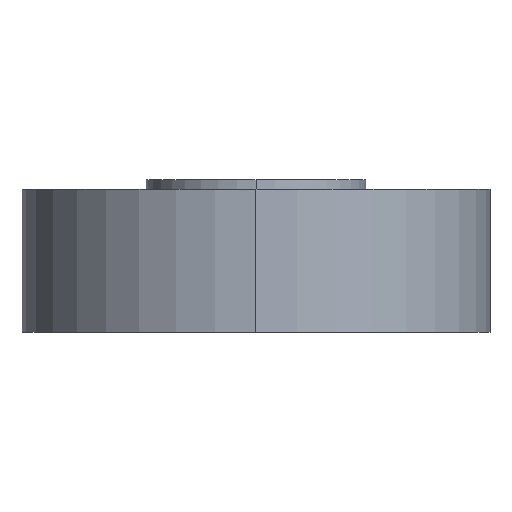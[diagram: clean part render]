
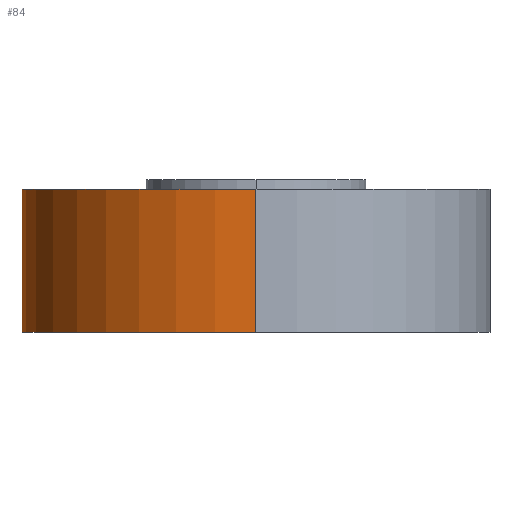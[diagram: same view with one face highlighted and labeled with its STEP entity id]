
A CAD part, left-side view. The second image highlights one B-rep face of the part: STEP entity #84.
In plain terms, the highlighted cylindrical face has radius 24.5 mm (diameter 49 mm), a partial arc.
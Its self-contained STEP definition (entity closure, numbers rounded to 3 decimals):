
#84=ADVANCED_FACE('',(#259),#260,.T.);
#259=FACE_OUTER_BOUND('',#640,.T.);
#260=CYLINDRICAL_SURFACE('',#641,24.5);
#640=EDGE_LOOP('',(#1066,#1067,#1068,#1069,#1070,#1071));
#641=AXIS2_PLACEMENT_3D('',#1072,#1073,#1074);
#1066=ORIENTED_EDGE('',*,*,#2196,.F.);
#1067=ORIENTED_EDGE('',*,*,#2197,.F.);
#1068=ORIENTED_EDGE('',*,*,#2198,.F.);
#1069=ORIENTED_EDGE('',*,*,#2199,.F.);
#1070=ORIENTED_EDGE('',*,*,#2200,.F.);
#1071=ORIENTED_EDGE('',*,*,#2201,.T.);
#1072=CARTESIAN_POINT('',(0.0,0.0,7.5));
#1073=DIRECTION('',(0.0,0.0,-1.0));
#1074=DIRECTION('',(1.0,0.0,0.0));
#2196=EDGE_CURVE('',#2563,#2564,#2565,.T.);
#2197=EDGE_CURVE('',#2566,#2563,#2567,.T.);
#2198=EDGE_CURVE('',#2568,#2566,#2569,.T.);
#2199=EDGE_CURVE('',#2570,#2568,#2571,.T.);
#2200=EDGE_CURVE('',#2572,#2570,#2573,.T.);
#2201=EDGE_CURVE('',#2572,#2564,#2574,.T.);
#2563=VERTEX_POINT('',#3129);
#2564=VERTEX_POINT('',#3130);
#2565=LINE('',#3131,#3132);
#2566=VERTEX_POINT('',#3133);
#2567=CIRCLE('',#3134,24.5);
#2568=VERTEX_POINT('',#3135);
#2569=LINE('',#3136,#3137);
#2570=VERTEX_POINT('',#3138);
#2571=CIRCLE('',#3139,24.5);
#2572=VERTEX_POINT('',#3140);
#2573=LINE('',#3141,#3142);
#2574=B_SPLINE_CURVE_WITH_KNOTS('',3,(#3143,#3144,#3145,#3146,#3147,#3148,#3149,#3150,#3151,#3152,#3153,#3154,#3155,#3156,#3157,#3158,#3159,#3160,#3161,#3162,#3163,#3164,#3165,#3166,#3167,#3168,#3169,#3170,#3171,#3172,#3173,#3174,#3175,#3176,#3177),.UNSPECIFIED.,.F.,.F.,(4,2,2,2,2,2,2,2,3,2,2,2,2,2,2,2,4),(9.95,10.365,10.779,11.194,11.609,12.023,12.438,12.852,13.267,13.682,14.096,14.511,14.925,15.34,15.755,16.169,16.584),.UNSPECIFIED.);
#3129=CARTESIAN_POINT('',(24.5,0.0,0.0));
#3130=CARTESIAN_POINT('',(24.5,0.0,2.3));
#3131=CARTESIAN_POINT('',(24.5,0.,7.5));
#3132=VECTOR('',#3843,1.0);
#3133=CARTESIAN_POINT('',(-24.5,0.,0.0));
#3134=AXIS2_PLACEMENT_3D('',#3844,#3845,#3846);
#3135=CARTESIAN_POINT('',(-24.5,0.,15.0));
#3136=CARTESIAN_POINT('',(-24.5,0.,7.5));
#3137=VECTOR('',#3847,1.0);
#3138=CARTESIAN_POINT('',(24.5,0.0,15.0));
#3139=AXIS2_PLACEMENT_3D('',#3848,#3849,#3850);
#3140=CARTESIAN_POINT('',(24.5,0.,6.7));
#3141=CARTESIAN_POINT('',(24.5,0.,7.5));
#3142=VECTOR('',#3851,1.0);
#3143=CARTESIAN_POINT('',(24.5,0.,6.7));
#3144=CARTESIAN_POINT('',(24.5,0.138,6.7));
#3145=CARTESIAN_POINT('',(24.499,0.281,6.687));
#3146=CARTESIAN_POINT('',(24.494,0.565,6.631));
#3147=CARTESIAN_POINT('',(24.49,0.707,6.589));
#3148=CARTESIAN_POINT('',(24.481,0.978,6.476));
#3149=CARTESIAN_POINT('',(24.475,1.108,6.406));
#3150=CARTESIAN_POINT('',(24.463,1.348,6.245));
#3151=CARTESIAN_POINT('',(24.457,1.458,6.153));
#3152=CARTESIAN_POINT('',(24.444,1.653,5.958));
#3153=CARTESIAN_POINT('',(24.438,1.745,5.848));
#3154=CARTESIAN_POINT('',(24.426,1.906,5.608));
#3155=CARTESIAN_POINT('',(24.42,1.976,5.478));
#3156=CARTESIAN_POINT('',(24.411,2.089,5.207));
#3157=CARTESIAN_POINT('',(24.407,2.131,5.065));
#3158=CARTESIAN_POINT('',(24.402,2.187,4.781));
#3159=CARTESIAN_POINT('',(24.401,2.2,4.638));
#3160=CARTESIAN_POINT('',(24.401,2.2,4.5));
#3161=CARTESIAN_POINT('',(24.401,2.2,4.362));
#3162=CARTESIAN_POINT('',(24.402,2.187,4.219));
#3163=CARTESIAN_POINT('',(24.407,2.131,3.935));
#3164=CARTESIAN_POINT('',(24.411,2.089,3.793));
#3165=CARTESIAN_POINT('',(24.42,1.976,3.522));
#3166=CARTESIAN_POINT('',(24.426,1.906,3.392));
#3167=CARTESIAN_POINT('',(24.438,1.745,3.152));
#3168=CARTESIAN_POINT('',(24.444,1.653,3.042));
#3169=CARTESIAN_POINT('',(24.457,1.458,2.847));
#3170=CARTESIAN_POINT('',(24.463,1.348,2.755));
#3171=CARTESIAN_POINT('',(24.475,1.108,2.594));
#3172=CARTESIAN_POINT('',(24.481,0.978,2.524));
#3173=CARTESIAN_POINT('',(24.49,0.707,2.411));
#3174=CARTESIAN_POINT('',(24.494,0.565,2.369));
#3175=CARTESIAN_POINT('',(24.499,0.281,2.313));
#3176=CARTESIAN_POINT('',(24.5,0.138,2.3));
#3177=CARTESIAN_POINT('',(24.5,0.0,2.3));
#3843=DIRECTION('',(0.0,0.0,1.0));
#3844=CARTESIAN_POINT('',(0.0,0.0,0.0));
#3845=DIRECTION('',(0.0,0.0,-1.0));
#3846=DIRECTION('',(1.0,0.0,0.0));
#3847=DIRECTION('',(0.0,0.0,-1.0));
#3848=CARTESIAN_POINT('',(0.0,0.0,15.0));
#3849=DIRECTION('',(0.0,0.0,1.0));
#3850=DIRECTION('',(1.0,0.0,0.0));
#3851=DIRECTION('',(0.0,0.0,1.0));
